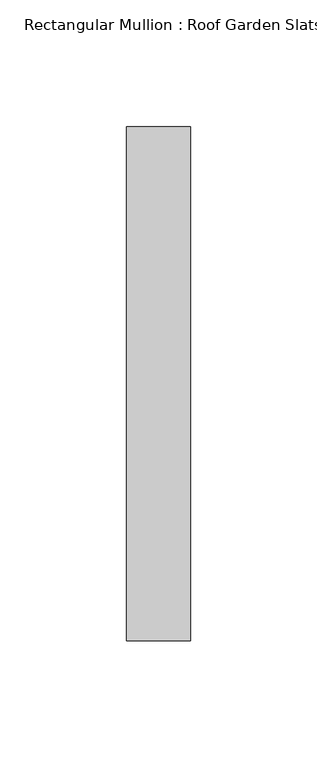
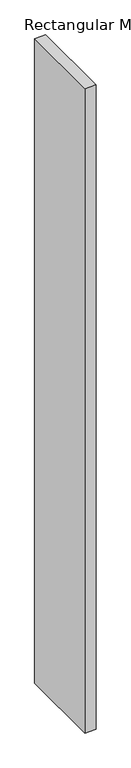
"""IFC4 building model written with IfcOpenShell, lengths in millimetres: member geometry, Rectangular Mullion : Roof Garden Slats."""

from ifc_helpers import new_model, si_unit, frame, origin, place, context, project, spatial, polyline, outline, extrude, source, transform, mapped, element, save


def rectangular_mullion_roof_garden_slats_6510fac4(model_context):
    return source(origin(), model_context, "Body", "SweptSolid", [
        extrude(outline(polyline([(12.7, 139.7), (12.7, -63.5), (-12.7, -63.5), (-12.7, 139.7), (12.7, 139.7)])), frame((0.0, 0.0, -1587.9335765), z_axis=(0.0, 0.0, 1.0), x_axis=(1.0, 0.0, 0.0)), (0.0, 0.0, 1.0), 1587.9335765),
    ])


if __name__ == "__main__":
    model = new_model("IFC4")
    model_context = context("Model", 3, world=origin())
    ifc_project = project(units=[si_unit("LENGTHUNIT", "METRE", prefix="MILLI")], contexts=[model_context])
    site = spatial("IfcSite", under=ifc_project)
    building = spatial("IfcBuilding", under=site)
    placement = place(None, origin())
    rectangular_mullion_roof_garden_slats_shape = rectangular_mullion_roof_garden_slats_6510fac4(model_context)
    element("IfcMember", 1, ObjectType="Rectangular Mullion : Roof Garden Slats", at=placement, inside=building, context=model_context, shape_type="MappedRepresentation", body=[
        mapped(rectangular_mullion_roof_garden_slats_shape, transform((0.0, 0.0, 0.0), x_axis=(1.0, 0.0, 0.0), y_axis=(0.0, 1.0, 0.0), z_axis=(0.0, 0.0, 1.0))),
    ])
    save(model, "model.ifc")
